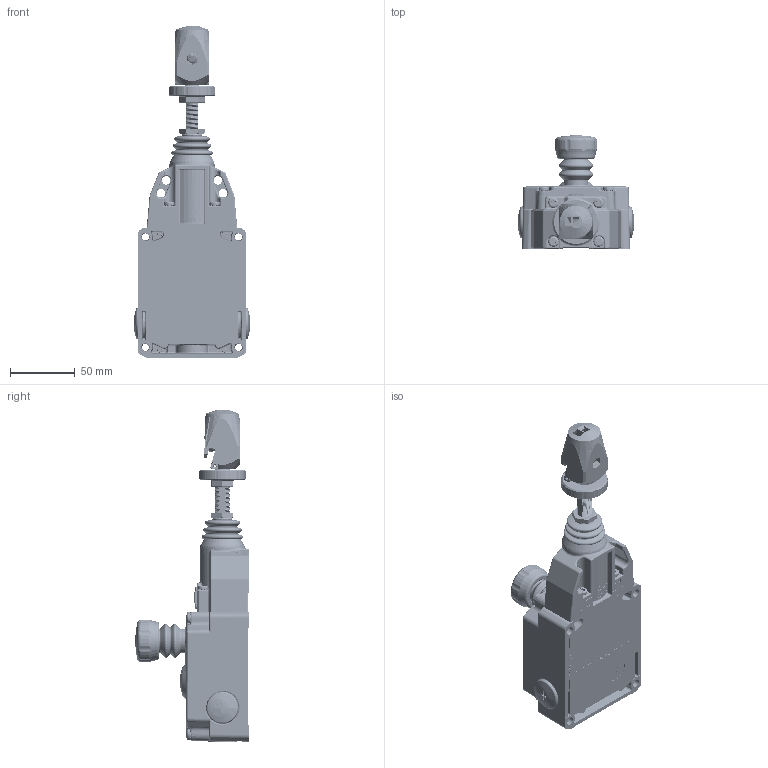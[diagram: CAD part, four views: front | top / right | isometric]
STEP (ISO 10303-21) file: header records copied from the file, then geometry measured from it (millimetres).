
FILE_DESCRIPTION((''),'2;1');
FILE_NAME('2030434_ASM','2021-02-08T08:49:00',('l.merz'),(''),'CREO PARAMETRIC BY PTC INC, 2019292','CREO PARAMETRIC BY PTC INC, 2019292','');
FILE_SCHEMA(('AUTOMOTIVE_DESIGN { 1 0 10303 214 1 1 1 1 }'));
Products named in the file (5): 2030436; 2030437; 2030438; 2016681; 2030434_ASM
Assembly tree (4 placements, depth 2):
  2030434_ASM
    2030436
    2030437
    2030438
    2016681
Bounding box: 90.13 x 88 x 257 mm (x, y, z)
Volume: 247776.5 mm3; surface area: 148575.9 mm2
Topology: 7 solids, 8 shells, 5630 faces, 15727 edges, 9878 vertices
Faces by surface type: plane 2144, cylinder 1460, bspline 712, torus 671, cone 443, sphere 192, extrusion 8
Entity records: 273606 total; most frequent: CARTESIAN_POINT 86688, ORIENTED_EDGE 31078, DIRECTION 27148, PRESENTATION_STYLE_ASSIGNMENT 15592, STYLED_ITEM 15592, CURVE_STYLE 15547, EDGE_CURVE 15539, AXIS2_PLACEMENT_3D 10278
